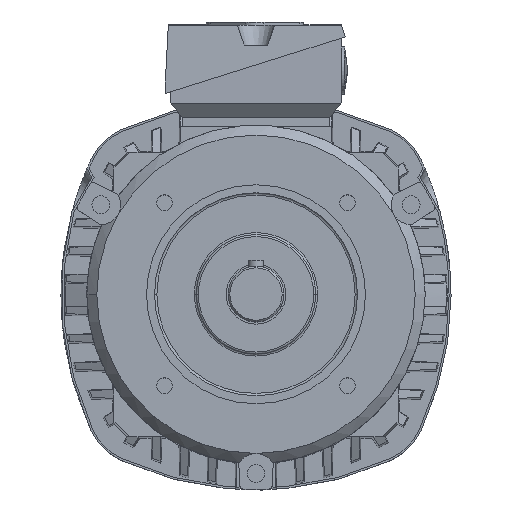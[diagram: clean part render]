
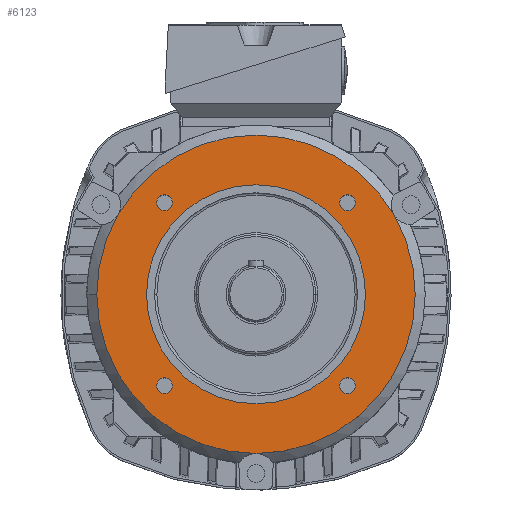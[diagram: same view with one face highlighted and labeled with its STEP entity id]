
A CAD part, top view. The second image highlights one B-rep face of the part: STEP entity #6123.
In plain terms, the highlighted planar face has unit normal (0, 0, 1).
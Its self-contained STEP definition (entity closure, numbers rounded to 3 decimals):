
#15 = EDGE_CURVE ( 'NONE', #845, #3542, #1710, .T. ) ;
#33 = EDGE_CURVE ( 'NONE', #7995, #232, #5158, .T. ) ;
#232 = VERTEX_POINT ( 'NONE', #14738 ) ;
#380 = CARTESIAN_POINT ( 'NONE',  ( 41.962, -45.962, 5. ) ) ;
#414 = CIRCLE ( 'NONE', #16078, 55. ) ;
#610 = AXIS2_PLACEMENT_3D ( 'NONE', #2936, #14105, #12764 ) ;
#791 = CARTESIAN_POINT ( 'NONE',  ( 45.962, 45.962, 5. ) ) ;
#816 = EDGE_LOOP ( 'NONE', ( #11889, #2717 ) ) ;
#845 = VERTEX_POINT ( 'NONE', #14212 ) ;
#875 = AXIS2_PLACEMENT_3D ( 'NONE', #9379, #4499, #10810 ) ;
#877 = DIRECTION ( 'NONE',  ( 0., -1., 0. ) ) ;
#963 = AXIS2_PLACEMENT_3D ( 'NONE', #9031, #1237, #7789 ) ;
#1070 = DIRECTION ( 'NONE',  ( 0., 0., 1. ) ) ;
#1237 = DIRECTION ( 'NONE',  ( 0., 0., -1. ) ) ;
#1442 = DIRECTION ( 'NONE',  ( 0., 1., 0. ) ) ;
#1710 = CIRCLE ( 'NONE', #12608, 4. ) ;
#1976 = EDGE_CURVE ( 'NONE', #3542, #845, #10229, .T. ) ;
#2024 = EDGE_CURVE ( 'NONE', #9377, #13610, #13718, .T. ) ;
#2218 = CARTESIAN_POINT ( 'NONE',  ( -45.962, -45.962, 5. ) ) ;
#2298 = EDGE_CURVE ( 'NONE', #13777, #13045, #15815, .T. ) ;
#2567 = CARTESIAN_POINT ( 'NONE',  ( 0., 0., 5. ) ) ;
#2717 = ORIENTED_EDGE ( 'NONE', *, *, #9277, .F. ) ;
#2814 = FACE_BOUND ( 'NONE', #7042, .T. ) ;
#2936 = CARTESIAN_POINT ( 'NONE',  ( -45.962, 45.962, 5. ) ) ;
#2954 = AXIS2_PLACEMENT_3D ( 'NONE', #12055, #15643, #14566 ) ;
#3044 = CARTESIAN_POINT ( 'NONE',  ( 55., 0., 5. ) ) ;
#3458 = DIRECTION ( 'NONE',  ( 0., 0., 1. ) ) ;
#3531 = ORIENTED_EDGE ( 'NONE', *, *, #5006, .T. ) ;
#3542 = VERTEX_POINT ( 'NONE', #380 ) ;
#3594 = EDGE_CURVE ( 'NONE', #11006, #10923, #11199, .T. ) ;
#3857 = ORIENTED_EDGE ( 'NONE', *, *, #2298, .F. ) ;
#4069 = EDGE_CURVE ( 'NONE', #5028, #7843, #11769, .T. ) ;
#4262 = CARTESIAN_POINT ( 'NONE',  ( -45.962, -45.962, 5. ) ) ;
#4303 = EDGE_CURVE ( 'NONE', #10923, #11006, #10160, .T. ) ;
#4499 = DIRECTION ( 'NONE',  ( 0., 0., 1. ) ) ;
#4563 = AXIS2_PLACEMENT_3D ( 'NONE', #2218, #3458, #13619 ) ;
#4933 = DIRECTION ( 'NONE',  ( 0., 0., 1. ) ) ;
#5006 = EDGE_CURVE ( 'NONE', #13610, #9377, #12976, .T. ) ;
#5028 = VERTEX_POINT ( 'NONE', #16364 ) ;
#5158 = CIRCLE ( 'NONE', #14990, 4. ) ;
#5358 = ORIENTED_EDGE ( 'NONE', *, *, #4303, .F. ) ;
#5383 = FACE_BOUND ( 'NONE', #14292, .T. ) ;
#5398 = DIRECTION ( 'NONE',  ( 1., 0., 0. ) ) ;
#5694 = EDGE_LOOP ( 'NONE', ( #3857, #9205 ) ) ;
#5863 = ORIENTED_EDGE ( 'NONE', *, *, #15, .F. ) ;
#5988 = AXIS2_PLACEMENT_3D ( 'NONE', #7887, #12896, #10541 ) ;
#6123 = ADVANCED_FACE ( 'NONE', ( #5383, #2814, #15374, #7883, #13980, #8951 ), #15536, .F. ) ;
#6140 = CIRCLE ( 'NONE', #2954, 4. ) ;
#6147 = DIRECTION ( 'NONE',  ( -1., 0., 0. ) ) ;
#6366 = DIRECTION ( 'NONE',  ( 0., 0., 1. ) ) ;
#6440 = AXIS2_PLACEMENT_3D ( 'NONE', #791, #10763, #877 ) ;
#7042 = EDGE_LOOP ( 'NONE', ( #5863, #14236 ) ) ;
#7096 = AXIS2_PLACEMENT_3D ( 'NONE', #2567, #15449, #12635 ) ;
#7789 = DIRECTION ( 'NONE',  ( -1., 0., 0. ) ) ;
#7843 = VERTEX_POINT ( 'NONE', #16021 ) ;
#7883 = FACE_BOUND ( 'NONE', #816, .T. ) ;
#7887 = CARTESIAN_POINT ( 'NONE',  ( 0., 0., 5. ) ) ;
#7995 = VERTEX_POINT ( 'NONE', #15836 ) ;
#8807 = CIRCLE ( 'NONE', #4563, 4. ) ;
#8917 = DIRECTION ( 'NONE',  ( 1., 0., 0. ) ) ;
#8951 = FACE_OUTER_BOUND ( 'NONE', #15419, .T. ) ;
#9031 = CARTESIAN_POINT ( 'NONE',  ( 0., 55., 5. ) ) ;
#9205 = ORIENTED_EDGE ( 'NONE', *, *, #14791, .F. ) ;
#9209 = DIRECTION ( 'NONE',  ( 0., 0., 1. ) ) ;
#9277 = EDGE_CURVE ( 'NONE', #7843, #5028, #6140, .T. ) ;
#9377 = VERTEX_POINT ( 'NONE', #13647 ) ;
#9379 = CARTESIAN_POINT ( 'NONE',  ( 45.962, 45.962, 5. ) ) ;
#9687 = AXIS2_PLACEMENT_3D ( 'NONE', #12484, #1070, #6147 ) ;
#9988 = DIRECTION ( 'NONE',  ( -1., 0., 0. ) ) ;
#10160 = CIRCLE ( 'NONE', #875, 4. ) ;
#10229 = CIRCLE ( 'NONE', #9687, 4. ) ;
#10294 = ORIENTED_EDGE ( 'NONE', *, *, #3594, .F. ) ;
#10541 = DIRECTION ( 'NONE',  ( 1., 0., 0. ) ) ;
#10763 = DIRECTION ( 'NONE',  ( 0., 0., 1. ) ) ;
#10788 = CARTESIAN_POINT ( 'NONE',  ( 0., 0., 5. ) ) ;
#10810 = DIRECTION ( 'NONE',  ( 0., -1., 0. ) ) ;
#10923 = VERTEX_POINT ( 'NONE', #14629 ) ;
#11006 = VERTEX_POINT ( 'NONE', #13886 ) ;
#11199 = CIRCLE ( 'NONE', #6440, 4. ) ;
#11228 = ORIENTED_EDGE ( 'NONE', *, *, #11436, .F. ) ;
#11436 = EDGE_CURVE ( 'NONE', #232, #7995, #8807, .T. ) ;
#11584 = DIRECTION ( 'NONE',  ( 0., 0., 1. ) ) ;
#11769 = CIRCLE ( 'NONE', #610, 4. ) ;
#11866 = CARTESIAN_POINT ( 'NONE',  ( 80., 0., 5. ) ) ;
#11889 = ORIENTED_EDGE ( 'NONE', *, *, #4069, .F. ) ;
#12055 = CARTESIAN_POINT ( 'NONE',  ( -45.962, 45.962, 5. ) ) ;
#12484 = CARTESIAN_POINT ( 'NONE',  ( 45.962, -45.962, 5. ) ) ;
#12608 = AXIS2_PLACEMENT_3D ( 'NONE', #16324, #4933, #9988 ) ;
#12635 = DIRECTION ( 'NONE',  ( 1., 0., 0. ) ) ;
#12764 = DIRECTION ( 'NONE',  ( 1., 0., 0. ) ) ;
#12896 = DIRECTION ( 'NONE',  ( 0., 0., 1. ) ) ;
#12915 = AXIS2_PLACEMENT_3D ( 'NONE', #15255, #6366, #8917 ) ;
#12922 = ORIENTED_EDGE ( 'NONE', *, *, #2024, .T. ) ;
#12976 = CIRCLE ( 'NONE', #7096, 80. ) ;
#13045 = VERTEX_POINT ( 'NONE', #15067 ) ;
#13165 = ORIENTED_EDGE ( 'NONE', *, *, #33, .F. ) ;
#13284 = EDGE_LOOP ( 'NONE', ( #10294, #5358 ) ) ;
#13610 = VERTEX_POINT ( 'NONE', #11866 ) ;
#13619 = DIRECTION ( 'NONE',  ( 0., 1., 0. ) ) ;
#13647 = CARTESIAN_POINT ( 'NONE',  ( -80., 0., 5. ) ) ;
#13718 = CIRCLE ( 'NONE', #5988, 80. ) ;
#13777 = VERTEX_POINT ( 'NONE', #3044 ) ;
#13886 = CARTESIAN_POINT ( 'NONE',  ( 49.962, 45.962, 5. ) ) ;
#13980 = FACE_BOUND ( 'NONE', #5694, .T. ) ;
#14105 = DIRECTION ( 'NONE',  ( 0., 0., 1. ) ) ;
#14212 = CARTESIAN_POINT ( 'NONE',  ( 49.962, -45.962, 5. ) ) ;
#14236 = ORIENTED_EDGE ( 'NONE', *, *, #1976, .F. ) ;
#14292 = EDGE_LOOP ( 'NONE', ( #13165, #11228 ) ) ;
#14566 = DIRECTION ( 'NONE',  ( 1., 0., 0. ) ) ;
#14629 = CARTESIAN_POINT ( 'NONE',  ( 41.962, 45.962, 5. ) ) ;
#14738 = CARTESIAN_POINT ( 'NONE',  ( -49.962, -45.962, 5. ) ) ;
#14791 = EDGE_CURVE ( 'NONE', #13045, #13777, #414, .T. ) ;
#14990 = AXIS2_PLACEMENT_3D ( 'NONE', #4262, #11584, #1442 ) ;
#15067 = CARTESIAN_POINT ( 'NONE',  ( -55., 0., 5. ) ) ;
#15255 = CARTESIAN_POINT ( 'NONE',  ( 0., 0., 5. ) ) ;
#15374 = FACE_BOUND ( 'NONE', #13284, .T. ) ;
#15419 = EDGE_LOOP ( 'NONE', ( #3531, #12922 ) ) ;
#15449 = DIRECTION ( 'NONE',  ( 0., 0., 1. ) ) ;
#15536 = PLANE ( 'NONE',  #963 ) ;
#15643 = DIRECTION ( 'NONE',  ( 0., 0., 1. ) ) ;
#15815 = CIRCLE ( 'NONE', #12915, 55. ) ;
#15836 = CARTESIAN_POINT ( 'NONE',  ( -41.962, -45.962, 5. ) ) ;
#16021 = CARTESIAN_POINT ( 'NONE',  ( -49.962, 45.962, 5. ) ) ;
#16078 = AXIS2_PLACEMENT_3D ( 'NONE', #10788, #9209, #5398 ) ;
#16324 = CARTESIAN_POINT ( 'NONE',  ( 45.962, -45.962, 5. ) ) ;
#16364 = CARTESIAN_POINT ( 'NONE',  ( -41.962, 45.962, 5. ) ) ;
